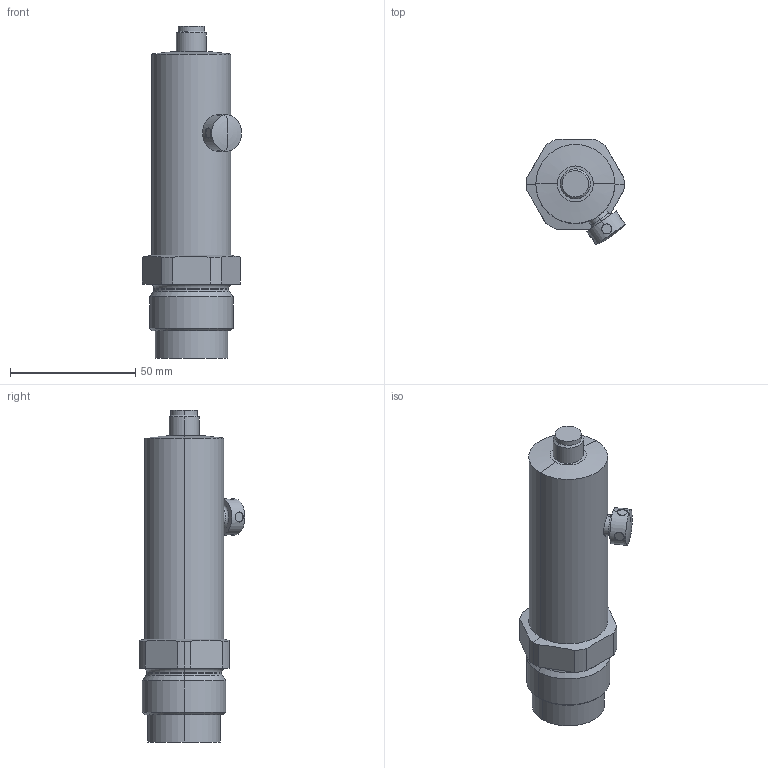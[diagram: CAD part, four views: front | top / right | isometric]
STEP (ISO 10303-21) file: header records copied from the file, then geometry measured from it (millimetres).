
FILE_DESCRIPTION(('starvars output'),'1');
FILE_NAME('cv20241203084850000032994.stp','08:48:50 2024/12/03',('Thomas Industrial Network Germany GmbH'),(' '),'Spatial InterOp 3D',' ',' ');
FILE_SCHEMA(('AP242_MANAGED_MODEL_BASED_3D_ENGINEERING_MIM_LF {1 0 10303 442 2 1 4}'));
Length unit declared in the file: millimetre
Products named in the file (1): 1
Bounding box: 39.52 x 42.27 x 132.5 mm (x, y, z)
Volume: 100717.3 mm3; surface area: 15428.9 mm2
Topology: 1 solids, 1 shells, 71 faces, 162 edges, 99 vertices
Faces by surface type: cylinder 34, plane 17, cone 12, torus 8
Entity records: 2870 total; most frequent: CARTESIAN_POINT 671, DIRECTION 360, ORIENTED_EDGE 320, EDGE_CURVE 160, AXIS2_PLACEMENT_3D 150, VERTEX_POINT 99, EDGE_LOOP 79, CIRCLE 78
